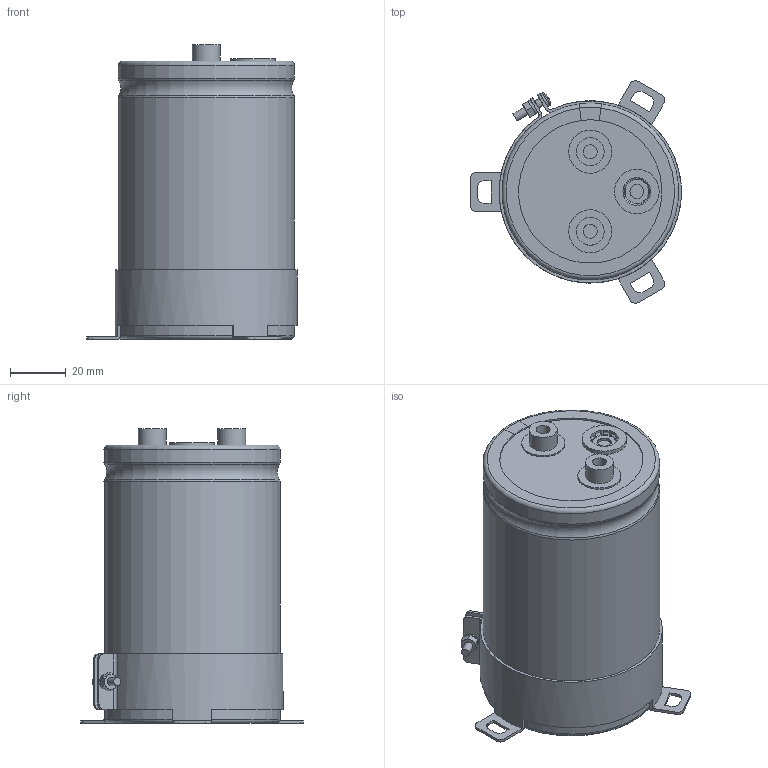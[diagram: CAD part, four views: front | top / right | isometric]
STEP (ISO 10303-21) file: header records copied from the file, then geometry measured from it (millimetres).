
FILE_DESCRIPTION(/* description */ (''),/* implementation_level */ '2;1');
FILE_NAME(/* name */ '63.5x100_Screw.stp',/* time_stamp */ '2017-09-15T19:31:55+09:00',/* author */ (''),/* organization */ (''),/* preprocessor_version */ 'ST-DEVELOPER v16',/* originating_system */ 'SIEMENS PLM Software NX 11.0',/* authorisation */ '');
FILE_SCHEMA (('AUTOMOTIVE_DESIGN { 1 0 10303 214 3 1 1 1 }'));
Length unit declared in the file: millimetre
Products named in the file (1): 63.5x100_Screw
Bounding box: 75.75 x 80.01 x 106 mm (x, y, z)
Volume: 318935.1 mm3; surface area: 80869.6 mm2
Topology: 9 solids, 9 shells, 259 faces, 644 edges, 415 vertices
Faces by surface type: plane 112, cylinder 66, torus 49, cone 31, sphere 1
Full cylindrical faces by diameter (mm): 3 x5, 5 x6, 5.5 x2, 10 x4, 15.5 x2, 16 x1, 62.3 x2
Entity records: 8411 total; most frequent: CARTESIAN_POINT 2059, DIRECTION 1296, ORIENTED_EDGE 1214, EDGE_CURVE 607, AXIS2_PLACEMENT_3D 541, VERTEX_POINT 408, EDGE_LOOP 317, CIRCLE 281
